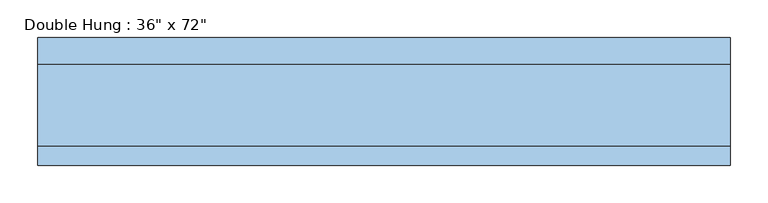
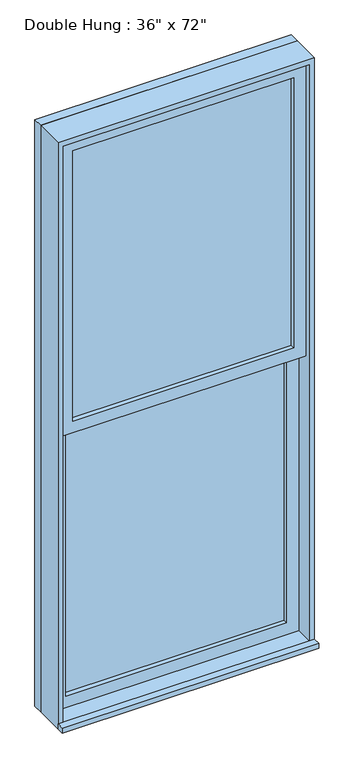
"""IFC4 building model written with IfcOpenShell, lengths in millimetres: window geometry."""

import ifcopenshell
import ifcopenshell.guid

model = None  # the IFC model being written
_history = None  # IfcOwnerHistory: only IFC2X3 demands one
_inside = {}  # id of a spatial element -> (the spatial element, [elements in it])
_under = {}  # id of a project, library or spatial element -> (it, [spatial elements below it])
_declared = {}  # id of a project -> (the project, [libraries it declares])
_typed = {}  # id of a type object -> (the type object, [elements of that type])
_made_of = {}  # id of a material, layer set ... -> (it, [elements and type objects made of it])


def new_model(schema):
    """Start an empty IFC model of exactly this schema.

    Asked for "IFC4X3", IfcOpenShell would pick the latest addendum, in which some entities
    have other attributes; the version numbers below select the first issue.
    IFC2X3 requires an IfcOwnerHistory on every rooted entity: one is made here for all.
    """
    global model, _history
    if schema == "IFC4X3":
        model = ifcopenshell.file(schema_version=(4, 3, 0, 0))
    else:
        model = ifcopenshell.file(schema=schema)
    _inside.clear()
    _under.clear()
    _declared.clear()
    _typed.clear()
    _made_of.clear()
    _history = None
    if model.schema == "IFC2X3":
        org = make("IfcOrganization", Name="unknown")
        user = make(
            "IfcPersonAndOrganization",
            ThePerson=make("IfcPerson", FamilyName="unknown"),
            TheOrganization=org,
        )
        app = make(
            "IfcApplication",
            ApplicationDeveloper=org,
            Version="unknown",
            ApplicationFullName="unknown",
            ApplicationIdentifier="unknown",
        )
        _history = make(
            "IfcOwnerHistory",
            OwningUser=user,
            OwningApplication=app,
            ChangeAction="ADDED",
            CreationDate=0,
        )
    return model


def make(cls, **values):
    """One entity of the class cls with the attributes given. An attribute that is None is left unset."""
    return model.create_entity(
        cls, **{name: value for name, value in values.items() if value is not None}
    )


def rooted(cls, **values):
    """An entity with a GlobalId (a new one), such as an element, a storey or a relation."""
    return make(cls, GlobalId=ifcopenshell.guid.new(), OwnerHistory=_history, **values)


def si_unit(unit_type, name, prefix=None):
    """IfcSIUnit, for example si_unit("LENGTHUNIT", "METRE", prefix="MILLI")."""
    return make("IfcSIUnit", UnitType=unit_type, Prefix=prefix, Name=name)


def assignment(units):
    """IfcUnitAssignment: the units of a project."""
    return None if units is None else make("IfcUnitAssignment", Units=units)


def point(xyz):
    """IfcCartesianPoint."""
    return None if xyz is None else make("IfcCartesianPoint", Coordinates=xyz)


def direction(xyz):
    """IfcDirection."""
    return None if xyz is None else make("IfcDirection", DirectionRatios=xyz)


def frame(location, z_axis=None, x_axis=None):
    """IfcAxis2Placement3D, a coordinate frame: its origin and axes. An axis left out is left unset."""
    return make(
        "IfcAxis2Placement3D",
        Location=point(location),
        Axis=direction(z_axis),
        RefDirection=direction(x_axis),
    )


def origin():
    """The frame at (0, 0, 0) with its axes left unset."""
    return frame((0.0, 0.0, 0.0))


def place(relative_to, where):
    """IfcLocalPlacement: puts the frame where relative to a parent placement (None: the world)."""
    return make(
        "IfcLocalPlacement", PlacementRelTo=relative_to, RelativePlacement=where
    )


def context(
    kind, dimensions, precision=None, world=None, true_north=None, identifier=None
):
    """IfcGeometricRepresentationContext, for example the 3D "Model" context."""
    return make(
        "IfcGeometricRepresentationContext",
        ContextIdentifier=identifier,
        ContextType=kind,
        CoordinateSpaceDimension=dimensions,
        Precision=precision,
        WorldCoordinateSystem=world,
        TrueNorth=true_north,
    )


def project(units=None, contexts=None):
    """IfcProject with its units and contexts."""
    return rooted(
        "IfcProject",
        Name="project",
        RepresentationContexts=contexts,
        UnitsInContext=assignment(units),
    )


def spatial(cls, under=None, at=None, **own):
    """A site, building, storey or space (cls), placed at a placement, below another one or the project."""
    s = rooted(cls, ObjectPlacement=at, **own)
    if under is not None:
        _under.setdefault(under.id(), (under, []))[1].append(s)
    return s


def polyline(points):
    """IfcPolyline through the points."""
    return make("IfcPolyline", Points=[point(p) for p in points])


def outline(outer, holes=None, kind="AREA"):
    """IfcArbitraryClosedProfileDef: a profile drawn as a closed curve; with holes, ...WithVoids."""
    if holes is None:
        return make("IfcArbitraryClosedProfileDef", ProfileType=kind, OuterCurve=outer)
    return make(
        "IfcArbitraryProfileDefWithVoids",
        ProfileType=kind,
        OuterCurve=outer,
        InnerCurves=holes,
    )


def extrude(swept, where, along, depth):
    """IfcExtrudedAreaSolid: the profile swept, set in the frame where, extruded along a direction by depth."""
    return make(
        "IfcExtrudedAreaSolid",
        SweptArea=swept,
        Position=where,
        ExtrudedDirection=direction(along),
        Depth=depth,
    )


def shape(context_of_items, identifier, shape_type, items):
    """IfcShapeRepresentation: the items that make up one representation, for example the "Body"."""
    return make(
        "IfcShapeRepresentation",
        ContextOfItems=context_of_items,
        RepresentationIdentifier=identifier,
        RepresentationType=shape_type,
        Items=items,
    )


def source(mapping_origin, context_of_items, identifier, shape_type, items):
    """IfcRepresentationMap: a shape defined once, which mapped items show again and again."""
    return make(
        "IfcRepresentationMap",
        MappingOrigin=mapping_origin,
        MappedRepresentation=shape(context_of_items, identifier, shape_type, items),
    )


def transform(
    local_origin,
    x_axis=None,
    y_axis=None,
    z_axis=None,
    scale=None,
    scale2=None,
    scale3=None,
    uniform=True,
):
    """IfcCartesianTransformationOperator3D, or its non-uniform kind. x_axis, y_axis, z_axis: its Axis1, 2, 3."""
    if uniform:
        return make(
            "IfcCartesianTransformationOperator3D",
            Axis1=direction(x_axis),
            Axis2=direction(y_axis),
            LocalOrigin=point(local_origin),
            Scale=scale,
            Axis3=direction(z_axis),
        )
    return make(
        "IfcCartesianTransformationOperator3DnonUniform",
        Axis1=direction(x_axis),
        Axis2=direction(y_axis),
        LocalOrigin=point(local_origin),
        Scale=scale,
        Axis3=direction(z_axis),
        Scale2=scale2,
        Scale3=scale3,
    )


def mapped(mapping_source, mapping_target):
    """IfcMappedItem: shows the shape of a source again, moved by a transform."""
    return make(
        "IfcMappedItem", MappingSource=mapping_source, MappingTarget=mapping_target
    )


def made_of(thing, what):
    """Note that an element or type object is made of a material, layer set ...; save() writes the relation."""
    if what is not None:
        _made_of.setdefault(what.id(), (what, []))[1].append(thing)
    return thing


def element(
    cls,
    number,
    at=None,
    inside=None,
    cuts=None,
    type_object=None,
    material=None,
    context=None,
    identifier="Body",
    shape_type=None,
    held_by="IfcProductDefinitionShape",
    body=None,
    shapes=None,
    **own,
):
    """One element of the class cls, such as IfcWall. Its Tag is "e" and its number.

    at: its placement. inside: the storey or other place that contains it. cuts: it is an
    opening in that element (IfcRelVoidsElement). A single representation is given by context,
    identifier, shape_type and body (its items); several are given by shapes. held_by: the class
    of the entity that holds the representations. save() writes the other relations.
    """
    e = rooted(cls, Tag="e%d" % number, ObjectPlacement=at, **own)
    if body is not None:
        shapes = [shape(context, identifier, shape_type, body)]
    if shapes is not None:
        e.Representation = make(held_by, Representations=shapes)
    if inside is not None:
        _inside.setdefault(inside.id(), (inside, []))[1].append(e)
    if cuts is not None:
        rooted(
            "IfcRelVoidsElement", RelatingBuildingElement=cuts, RelatedOpeningElement=e
        )
    if type_object is not None:
        _typed.setdefault(type_object.id(), (type_object, []))[1].append(e)
    return made_of(e, material)


def aggregate(whole, parts):
    """IfcRelAggregates: a whole, such as a stair, and the parts it consists of."""
    return rooted("IfcRelAggregates", RelatingObject=whole, RelatedObjects=parts)


def save(model, path):
    """Write the relations noted so far, then the file.

    IfcRelAggregates (storeys below a building ...), IfcRelContainedInSpatialStructure (elements
    in a storey), IfcRelDefinesByType, IfcRelAssociatesMaterial and IfcRelDeclares: one each for
    every whole, place, type object, material and project.
    """
    for whole, parts in _under.values():
        aggregate(whole, parts)
    for where, things in _inside.values():
        rooted(
            "IfcRelContainedInSpatialStructure",
            RelatedElements=things,
            RelatingStructure=where,
        )
    for kind, things in _typed.values():
        rooted("IfcRelDefinesByType", RelatedObjects=things, RelatingType=kind)
    for what, things in _made_of.values():
        rooted("IfcRelAssociatesMaterial", RelatedObjects=things, RelatingMaterial=what)
    for by, libraries in _declared.values():
        rooted("IfcRelDeclares", RelatingContext=by, RelatedDefinitions=libraries)
    model.write(path)


def window_3cc1756d(model_context):
    return source(origin(), model_context, "Body", "SweptSolid", [
        extrude(outline(polyline([(-393.7, 7.9375), (-393.7, 20.6375), (393.7, 20.6375), (393.7, 7.9375), (-393.7, 7.9375)])), frame((0.0, 0.0, 368.3), z_axis=(0.0, 0.0, 1.0), x_axis=(1.0, 0.0, 0.0)), (0.0, 0.0, 1.0), 1019.175),
        extrude(outline(polyline([(1431.925, -438.15), (323.85, -438.15), (323.85, 438.15), (1431.925, 438.15), (1431.925, -438.15)]), holes=[polyline([(1387.475, -393.7), (1387.475, 393.7), (368.3, 393.7), (368.3, -393.7), (1387.475, -393.7)])]), frame((0.0, -7.9375, 0.0), z_axis=(0.0, 1.0, 0.0), x_axis=(0.0, 0.0, 1.0)), (0.0, 0.0, 1.0), 44.45),
        extrude(outline(polyline([(-457.2, -96.8375), (-457.2, -71.4375), (457.2, -71.4375), (457.2, -96.8375), (-457.2, -96.8375)])), frame((0.0, 0.0, 304.8), z_axis=(0.0, 0.0, 1.0), x_axis=(1.0, 0.0, 0.0)), (0.0, 0.0, 1.0), 19.05),
        extrude(outline(polyline([(393.7, -23.8125), (393.7, -36.5125), (-393.7, -36.5125), (-393.7, -23.8125), (393.7, -23.8125)])), frame((0.0, 0.0, 1431.925), z_axis=(0.0, 0.0, 1.0), x_axis=(1.0, 0.0, 0.0)), (0.0, 0.0, 1.0), 1019.175),
        extrude(outline(polyline([(2495.55, -438.15), (1387.475, -438.15), (1387.475, 438.15), (2495.55, 438.15), (2495.55, -438.15)]), holes=[polyline([(2451.1, -393.7), (2451.1, 393.7), (1431.925, 393.7), (1431.925, -393.7), (2451.1, -393.7)])]), frame((0.0, -52.3875, 0.0), z_axis=(0.0, 1.0, 0.0), x_axis=(0.0, 0.0, 1.0)), (0.0, 0.0, 1.0), 44.45),
        extrude(outline(polyline([(2514.6, -457.2), (304.8, -457.2), (304.8, 457.2), (2514.6, 457.2), (2514.6, -457.2)]), holes=[polyline([(2482.85, -425.45), (2482.85, 425.45), (336.55, 425.45), (336.55, -425.45), (2482.85, -425.45)])]), frame((0.0, 36.5125, 0.0), z_axis=(0.0, 1.0, 0.0), x_axis=(0.0, 0.0, 1.0)), (0.0, 0.0, 1.0), 34.925),
        extrude(outline(polyline([(2514.6, 457.2), (2514.6, -457.2), (304.8, -457.2), (304.8, 457.2), (2514.6, 457.2)]), holes=[polyline([(2495.55, 438.15), (323.85, 438.15), (323.85, -438.15), (2495.55, -438.15), (2495.55, 438.15)])]), frame((0.0, -71.4375, 0.0), z_axis=(0.0, 1.0, 0.0), x_axis=(0.0, 0.0, 1.0)), (0.0, 0.0, 1.0), 107.95),
    ])


if __name__ == "__main__":
    model = new_model("IFC4")
    model_context = context("Model", 3, world=origin())
    ifc_project = project(units=[si_unit("LENGTHUNIT", "METRE", prefix="MILLI")], contexts=[model_context])
    site = spatial("IfcSite", under=ifc_project)
    building = spatial("IfcBuilding", under=site)
    placement = place(None, origin())
    window_shape = window_3cc1756d(model_context)
    element("IfcWindow", 1, ObjectType="Double Hung : 36\" x 72\"", at=placement, inside=building, context=model_context, shape_type="MappedRepresentation", body=[
        mapped(window_shape, transform((0.0, 0.0, 0.0), x_axis=(1.0, 0.0, 0.0), y_axis=(0.0, 1.0, 0.0), z_axis=(0.0, 0.0, 1.0))),
    ])
    save(model, "model.ifc")
